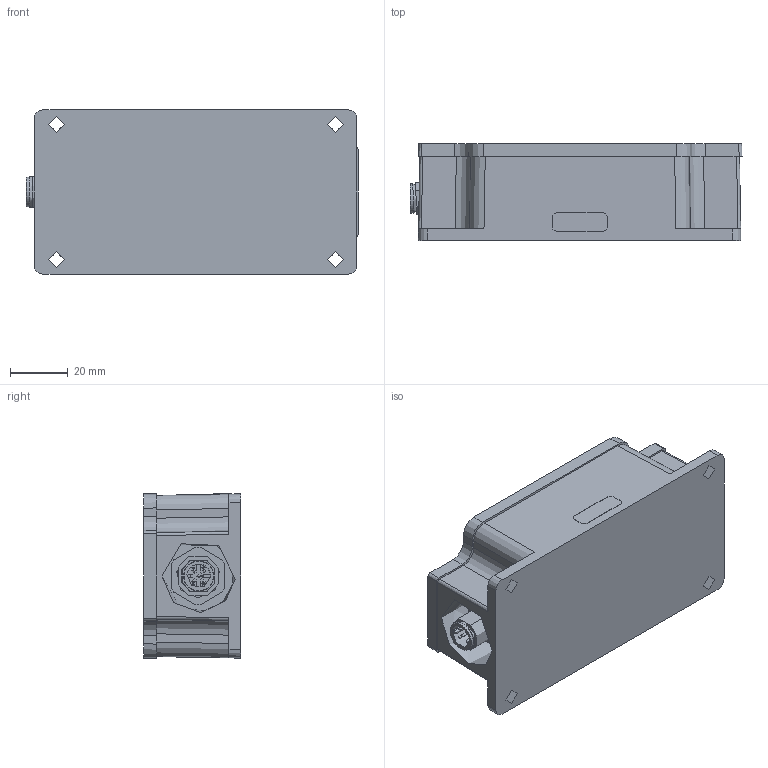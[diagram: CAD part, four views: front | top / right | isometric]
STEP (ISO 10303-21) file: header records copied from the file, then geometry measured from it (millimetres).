
FILE_DESCRIPTION(/* description */ (''),/* implementation_level */ '2;1');
FILE_NAME(/* name */ 'S:\Projects\3DA-3DG-EXT-INC-CAN, AX060910, Proj_18008\UNIT ASSEMBLY\RELEASED\rev A\AX060911.stp',/* time_stamp */ '2020-01-09T18:25:51-05:00',/* author */ ('tfisher'),/* organization */ (''),/* preprocessor_version */ 'ST-DEVELOPER v15.2',/* originating_system */ 'Autodesk Inventor 2014',/* authorisation */ '');
FILE_SCHEMA (('AUTOMOTIVE_DESIGN { 1 0 10303 214 3 1 1 }'));
Products named in the file (1): AX060911 for STEP
Bounding box: 114.81 x 33.58 x 57.09 mm (x, y, z)
Volume: 172436.8 mm3; surface area: 30275 mm2
Topology: 2 solids, 4 shells, 2773 faces, 7357 edges, 4888 vertices
Faces by surface type: plane 1747, bspline 764, cylinder 168, cone 59, torus 28, sphere 7
Full cylindrical faces by diameter (mm): 1 x5, 1.1 x5, 1.524 x10, 3.251 x4, 4 x4, 8 x4, 8.2 x1, 8.3 x1, 10.2 x1, 10.5 x1, 10.917 x1, 12.192 x2, 12.2 x1, 15.1 x1
Entity records: 91142 total; most frequent: CARTESIAN_POINT 25089, ORIENTED_EDGE 14464, DIRECTION 10068, EDGE_CURVE 7227, LINE 5108, VECTOR 5108, VERTEX_POINT 4845, EDGE_LOOP 3174
